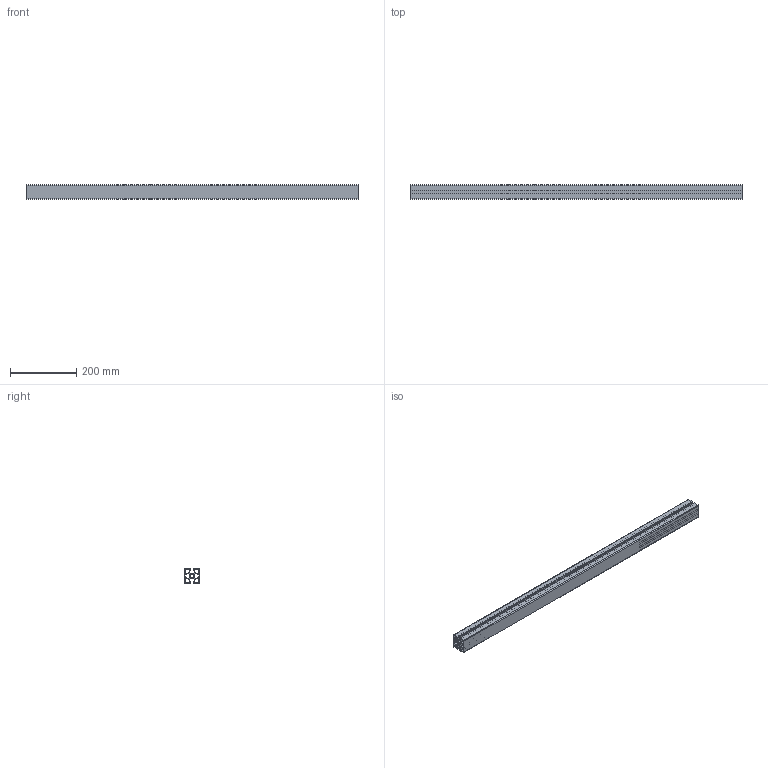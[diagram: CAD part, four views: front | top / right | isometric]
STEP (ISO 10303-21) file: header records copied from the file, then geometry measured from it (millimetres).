
FILE_DESCRIPTION (( 'STEP AP214' ), '1' );
FILE_NAME ('1.0173 45x45 L 2SS vasta vahvist. 1000mm.STEP', '2026-03-18T08:56:14', ( '' ), ( '' ), 'SwSTEP 2.0', 'SolidWorks 2025', '' );
FILE_SCHEMA (( 'AUTOMOTIVE_DESIGN' ));
Length unit declared in the file: millimetre
Products named in the file (1): 1.0173 45x45 L 2SS vasta vahvist. 1000mm
Bounding box: 1000 x 45 x 45 mm (x, y, z)
Volume: 731601.6 mm3; surface area: 571938.6 mm2
Topology: 1 solids, 1 shells, 143 faces, 423 edges, 282 vertices
Faces by surface type: plane 74, cylinder 69
Entity records: 6439 total; most frequent: CARTESIAN_POINT 849, DIRECTION 849, ORIENTED_EDGE 846, EDGE_CURVE 423, LINE 285, VECTOR 285, VERTEX_POINT 282, AXIS2_PLACEMENT_3D 282
